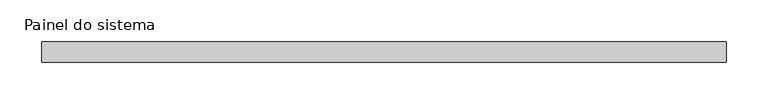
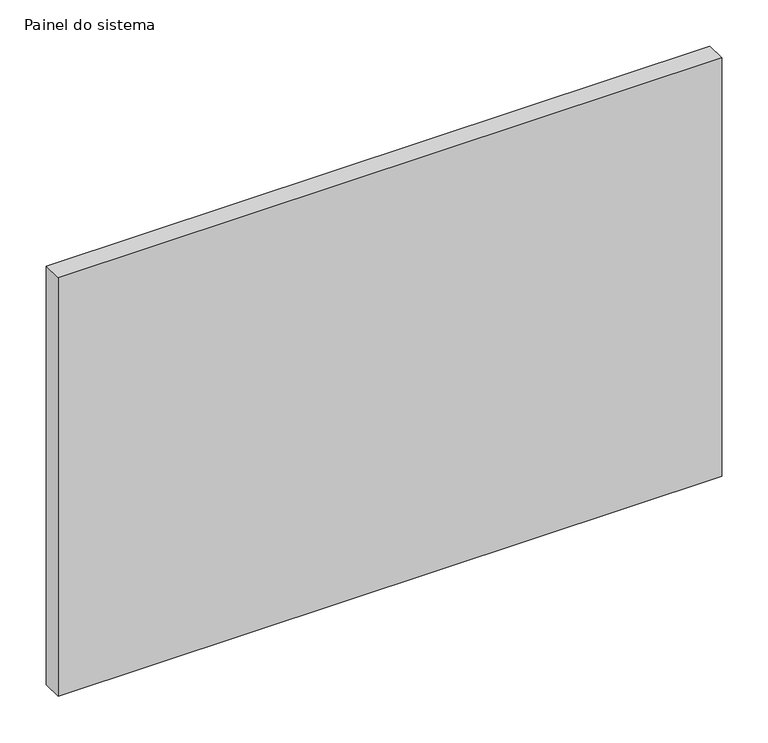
"""IFC4 building model written with IfcOpenShell, lengths in millimetres: plate geometry, Painel do sistema : Envidraçado."""

from ifc_helpers import new_model, si_unit, origin, origin_with_axes, place, context, project, spatial, polyline, outline, extrude, source, transform, mapped, element, save


def painel_do_sistema_05559cbe(model_context):
    return source(origin(), model_context, "Body", "SweptSolid", [
        extrude(outline(polyline([(412.5, 24.5), (-412.5, 24.5), (-412.5, 49.5), (412.5, 49.5), (412.5, 24.5)])), origin_with_axes(), (0.0, 0.0, 1.0), 550.0),
    ])


if __name__ == "__main__":
    model = new_model("IFC4")
    model_context = context("Model", 3, world=origin())
    ifc_project = project(units=[si_unit("LENGTHUNIT", "METRE", prefix="MILLI")], contexts=[model_context])
    site = spatial("IfcSite", under=ifc_project)
    building = spatial("IfcBuilding", under=site)
    placement = place(None, origin())
    painel_do_sistema_shape = painel_do_sistema_05559cbe(model_context)
    element("IfcPlate", 1, ObjectType="Painel do sistema : Envidraçado", at=placement, inside=building, context=model_context, shape_type="MappedRepresentation", body=[
        mapped(painel_do_sistema_shape, transform((0.0, 0.0, 0.0), x_axis=(1.0, 0.0, 0.0), y_axis=(0.0, 1.0, 0.0), z_axis=(0.0, 0.0, 1.0))),
    ])
    save(model, "model.ifc")
